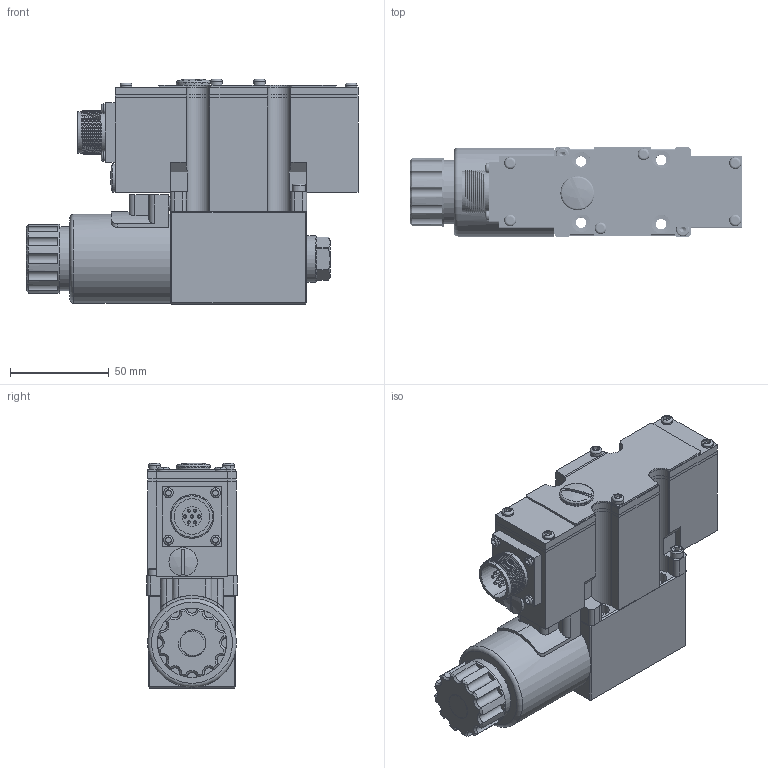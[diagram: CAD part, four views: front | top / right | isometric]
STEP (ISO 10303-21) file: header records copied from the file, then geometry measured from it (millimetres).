
FILE_DESCRIPTION(/* description */ (''),/* implementation_level */ '2;1');
FILE_NAME(/* name */ '4WRAE6A-2XJ比例换向阀.prt.stp',/* time_stamp */ '2022-03-30T18:33:21+08:00',/* author */ (''),/* organization */ (''),/* preprocessor_version */ 'ST-DEVELOPER v16.7',/* originating_system */ 'SIEMENS PLM Software NX 12.0',/* authorisation */ '');
FILE_SCHEMA (('AUTOMOTIVE_DESIGN { 1 0 10303 214 3 1 1 1 }'));
Products named in the file (1): 4WRAE6A-2XJ比例换向阀
Bounding box: 168.2 x 46 x 114.49 mm (x, y, z)
Volume: 380711.1 mm3; surface area: 123074.9 mm2
Topology: 22 solids, 23 shells, 888 faces, 2150 edges, 1324 vertices
Faces by surface type: plane 419, cylinder 301, cone 56, torus 44, bspline 41, sphere 23, extrusion 4
Full cylindrical faces by diameter (mm): 1.8 x2, 2 x6, 2.5 x4, 3.2 x59, 3.6 x4, 4 x3, 5.3 x4, 5.5 x2, 6.78 x2, 7 x2, 8.1 x1, 8.7 x1, 9.4 x4, 9.6 x1, 11 x1, 11.026 x3, 12.2 x7, 12.8 x1, 14.3 x1, 14.4 x1, 14.6 x1, 14.701 x3, 17.2 x1, 17.4 x1, 18 x1, 23 x2, 23.5 x1, 24 x1, 32.5 x1, 35 x1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
Entity records: 72987 total; most frequent: CARTESIAN_POINT 54412, DIRECTION 3686, ORIENTED_EDGE 3592, EDGE_CURVE 1796, AXIS2_PLACEMENT_3D 1416, VERTEX_POINT 1176, EDGE_LOOP 1008, VECTOR 854
